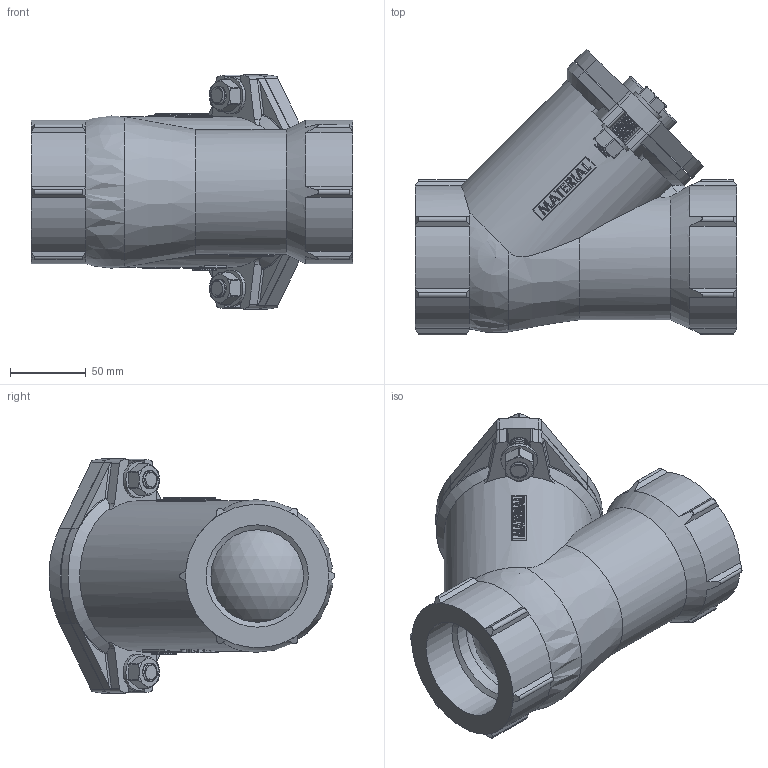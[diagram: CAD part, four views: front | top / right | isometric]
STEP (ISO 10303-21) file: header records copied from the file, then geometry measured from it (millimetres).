
FILE_DESCRIPTION(/* description */ ('Eriks item no: 11812987'),/* implementation_level */ '2;1');
FILE_NAME(/* name */ 'L:\DATA\ENG\Inventor\Econ 3D modellen\terugslagklep\2631\2631-DN65-PN16-NBR-SB.stp',/* time_stamp */ '2022-03-21T10:32:47+01:00',/* author */ ('roger.thijssen'),/* organization */ (''),/* preprocessor_version */ 'ST-DEVELOPER v18',/* originating_system */ 'Autodesk Inventor 2020',/* authorisation */ '');
FILE_SCHEMA (('AUTOMOTIVE_DESIGN { 1 0 10303 214 3 1 1 }'));
Length unit declared in the file: millimetre
Products named in the file (1): Ball check valve, 2631 - 2.1/2" BSPP - PN16 - NBR - SB
Bounding box: 212 x 188.53 x 154.75 mm (x, y, z)
Volume: 1115804.1 mm3; surface area: 232475 mm2
Topology: 8 solids, 8 shells, 723 faces, 1893 edges, 1205 vertices
Faces by surface type: cylinder 334, plane 304, bspline 35, torus 31, cone 15, sphere 4
Full cylindrical faces by diameter (mm): 9.835 x42, 12 x44, 12.2 x2, 13 x4, 24 x4, 30 x1, 35 x1, 43 x1, 61 x1, 67.5 x2, 84 x2, 85 x1
Entity records: 34675 total; most frequent: CARTESIAN_POINT 17430, ORIENTED_EDGE 3762, DIRECTION 3418, EDGE_CURVE 1881, AXIS2_PLACEMENT_3D 1233, VERTEX_POINT 1205, LINE 952, VECTOR 952
